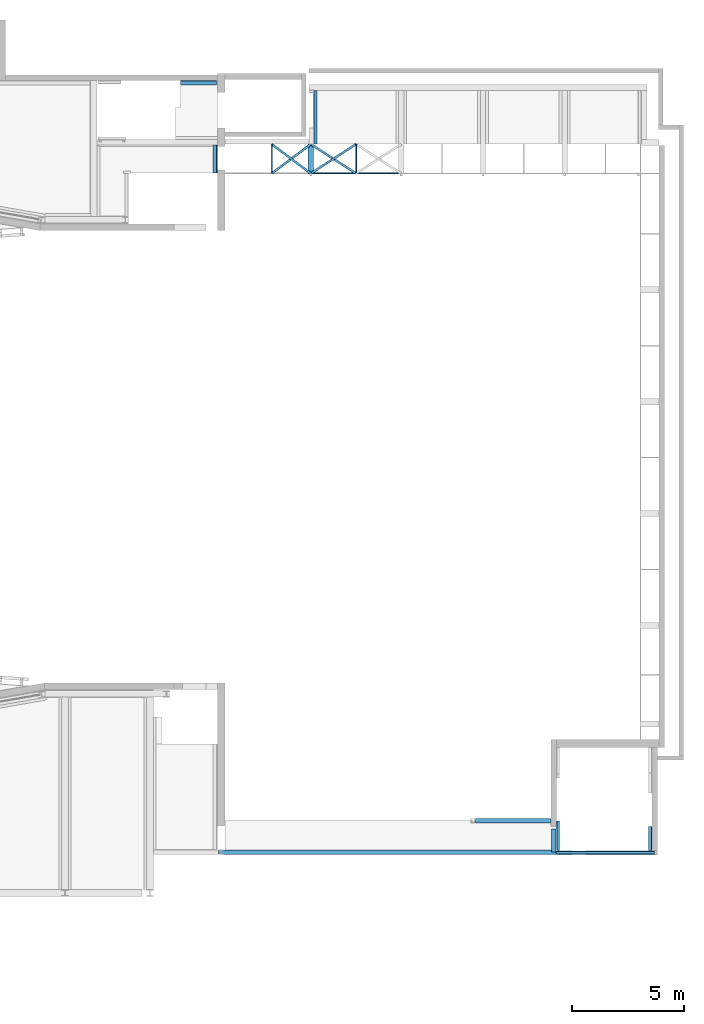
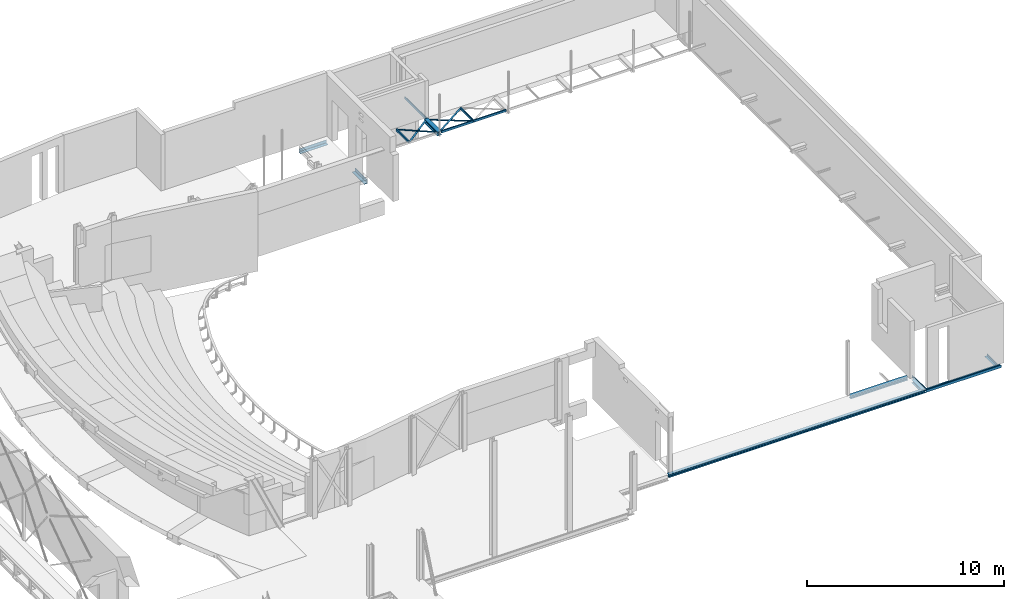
# One storey, part 28 of 68: 17 beams.
"""IFC2X3 building model written with IfcOpenShell, lengths in millimetres."""

from ifc_helpers import new_model, entity, si_unit, converted_unit, derived_unit, direction, frame, frame_2d, origin, place, context, subcontext, project, spatial, polyline, circle_curve, parameter, trimmed, segment, composite_curve, rectangle, i_section, outline, extrude, material, type_object, element, save


model = new_model("IFC2X3")

# Units and contexts
model_context = context("Model", 3, precision=0.01, world=origin(), true_north=direction((6.12303176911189e-17, 1.0)))
body_context = subcontext(model_context, "Body", "Model", "MODEL_VIEW")
ifc_project = project(units=[si_unit("LENGTHUNIT", "METRE", prefix="MILLI"), si_unit("AREAUNIT", "SQUARE_METRE", prefix="MILLI"), si_unit("VOLUMEUNIT", "CUBIC_METRE"), converted_unit("PLANEANGLEUNIT", "DEGREE", entity("IfcRatioMeasure", 0.0174532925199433), si_unit("PLANEANGLEUNIT", "RADIAN"), dimensions=[0, 0, 0, 0, 0, 0, 0]), si_unit("MASSUNIT", "GRAM", prefix="KILO"), derived_unit("MASSDENSITYUNIT", [(si_unit("MASSUNIT", "GRAM", prefix="KILO"), 1), (si_unit("LENGTHUNIT", "METRE"), -3)]), derived_unit("MOMENTOFINERTIAUNIT", [(si_unit("LENGTHUNIT", "METRE"), 4)]), si_unit("TIMEUNIT", "SECOND"), si_unit("FREQUENCYUNIT", "HERTZ"), si_unit("THERMODYNAMICTEMPERATUREUNIT", "DEGREE_CELSIUS"), derived_unit("THERMALTRANSMITTANCEUNIT", [(si_unit("MASSUNIT", "GRAM", prefix="KILO"), 1), (si_unit("THERMODYNAMICTEMPERATUREUNIT", "KELVIN"), -1), (si_unit("TIMEUNIT", "SECOND"), -3)]), derived_unit("VOLUMETRICFLOWRATEUNIT", [(si_unit("LENGTHUNIT", "METRE"), 3), (si_unit("TIMEUNIT", "SECOND"), -1)]), si_unit("ELECTRICCURRENTUNIT", "AMPERE"), si_unit("ELECTRICVOLTAGEUNIT", "VOLT"), si_unit("POWERUNIT", "WATT"), si_unit("FORCEUNIT", "NEWTON", prefix="KILO"), si_unit("ILLUMINANCEUNIT", "LUX"), si_unit("LUMINOUSFLUXUNIT", "LUMEN"), si_unit("LUMINOUSINTENSITYUNIT", "CANDELA"), derived_unit("USERDEFINED", [(si_unit("MASSUNIT", "GRAM", prefix="KILO"), -1), (si_unit("LENGTHUNIT", "METRE"), -2), (si_unit("TIMEUNIT", "SECOND"), 3), (si_unit("LUMINOUSFLUXUNIT", "LUMEN"), 1)]), derived_unit("LINEARVELOCITYUNIT", [(si_unit("LENGTHUNIT", "METRE"), 1), (si_unit("TIMEUNIT", "SECOND"), -1)]), si_unit("PRESSUREUNIT", "PASCAL"), derived_unit("USERDEFINED", [(si_unit("LENGTHUNIT", "METRE"), -2), (si_unit("MASSUNIT", "GRAM", prefix="KILO"), 1), (si_unit("TIMEUNIT", "SECOND"), -2)]), derived_unit("LINEARFORCEUNIT", [(si_unit("MASSUNIT", "GRAM", prefix="KILO"), 1), (si_unit("LENGTHUNIT", "METRE"), 1), (si_unit("TIMEUNIT", "SECOND"), -2), (si_unit("LENGTHUNIT", "METRE"), -1)]), derived_unit("PLANARFORCEUNIT", [(si_unit("MASSUNIT", "GRAM", prefix="KILO"), 1), (si_unit("LENGTHUNIT", "METRE"), 1), (si_unit("TIMEUNIT", "SECOND"), -2), (si_unit("LENGTHUNIT", "METRE"), -2)])], contexts=[model_context])

# Site, building, storey
site_placement = place(None, origin())
site = spatial("IfcSite", under=ifc_project, at=site_placement, Name="Theater aan de Parade", CompositionType="ELEMENT")
building_placement = place(site_placement, origin())
building = spatial("IfcBuilding", under=site, at=building_placement, Name="Theater aan de Parade", CompositionType="ELEMENT")
storey_placement = place(building_placement, frame((0.0, 0.0, 8750.0)))
storey = spatial("IfcBuildingStorey", under=building, at=storey_placement, Name="02 tweede verdieping", CompositionType="ELEMENT", Elevation=8750.0)

# Beams
ifc_material_1 = material(Name="00_PBT_MAT_staal_S355")
beam_type_1 = type_object("IfcBeamType", Name="28_PBT_SF_staal_L-profiel:S355_L150x150x15", PredefinedType="NOTDEFINED")
beam_1_placement = place(storey_placement, frame((71699.5000000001, 48822.0, 0.0), z_axis=(0.0, 0.0, 1.0), x_axis=(0.0, -1.0, 0.0)))
element("IfcBeam", 1, at=beam_1_placement, inside=storey, type_object=beam_type_1, material=ifc_material_1, Name="28_PBT_SF_staal_L-profiel:S355_L150x150x15", ObjectType="28_PBT_SF_staal_L-profiel:S355_L150x150x15", context=body_context, shape_type="SweptSolid", body=[
    extrude(outline(composite_curve([segment(polyline([(-93.3333333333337, -56.6666666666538), (56.6666666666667, -56.6666666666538)]), True, "CONTINUOUS"), segment(polyline([(56.6666666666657, -56.6666666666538), (56.6666666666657, 93.3333333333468)]), True, "CONTINUOUS"), segment(polyline([(56.6666666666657, 93.3333333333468), (49.6666666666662, 93.3333333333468)]), True, "CONTINUOUS"), segment(trimmed(circle_curve(frame_2d((49.6666666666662, 85.3333333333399), x_axis=(0.0, 1.0)), 7.99999999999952), [parameter(0.0)], [parameter(90.0000000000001)], True, "PARAMETER"), True, "CONTINUOUS"), segment(polyline([(41.6666666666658, 85.3333333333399), (41.6666666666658, -25.6666666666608)]), True, "CONTINUOUS"), segment(trimmed(circle_curve(frame_2d((25.6666666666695, -25.6666666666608), x_axis=(1.0, 0.0)), 15.999999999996), [parameter(269.999999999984)], [parameter(0.0)], True, "PARAMETER"), False, "CONTINUOUS"), segment(polyline([(25.6666666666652, -41.6666666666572), (-85.3333333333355, -41.6666666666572)]), True, "CONTINUOUS"), segment(trimmed(circle_curve(frame_2d((-85.3333333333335, -49.6666666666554), x_axis=(0.0, 1.0)), 7.9999999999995), [parameter(0.0)], [parameter(90.0000000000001)], True, "PARAMETER"), True, "CONTINUOUS"), segment(polyline([(-93.3333333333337, -49.6666666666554), (-93.3333333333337, -56.6666666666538)]), True, "CONTINUOUS")], self_intersect=False)), frame((0.0, 14.1666666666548, 1051.66666666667), z_axis=(1.0, 0.0, 0.0), x_axis=(0.0, 0.0, -1.0)), (0.0, 0.0, 1.0), 2410.12765932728),
])
beam_2_placement = place(storey_placement, frame((82542.5084217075, 14850.0, 0.0), z_axis=(0.0, 0.0, 1.0), x_axis=(0.0, 1.0, 0.0)))
element("IfcBeam", 2, at=beam_2_placement, inside=storey, type_object=beam_type_1, material=ifc_material_1, Name="28_PBT_SF_staal_L-profiel:S355_L150x150x15", ObjectType="28_PBT_SF_staal_L-profiel:S355_L150x150x15", context=body_context, shape_type="SweptSolid", body=[
    extrude(outline(composite_curve([segment(polyline([(49.6666666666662, -93.3333333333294), (56.6666666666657, -93.3333333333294)]), True, "CONTINUOUS"), segment(polyline([(56.6666666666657, -93.3333333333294), (56.6666666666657, 56.6666666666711)]), True, "CONTINUOUS"), segment(polyline([(56.6666666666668, 56.6666666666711), (-93.3333333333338, 56.6666666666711)]), True, "CONTINUOUS"), segment(polyline([(-93.3333333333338, 56.6666666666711), (-93.3333333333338, 49.6666666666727)]), True, "CONTINUOUS"), segment(trimmed(circle_curve(frame_2d((-85.3333333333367, 49.6666666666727), x_axis=(-1.0, 0.0)), 7.9999999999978), [parameter(0.0)], [parameter(90.0000000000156)], True, "PARAMETER"), True, "CONTINUOUS"), segment(polyline([(-85.3333333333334, 41.6666666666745), (25.6666666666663, 41.6666666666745)]), True, "CONTINUOUS"), segment(trimmed(circle_curve(frame_2d((25.6666666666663, 25.6666666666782), x_axis=(0.0, 1.0)), 15.9999999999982), [parameter(270.0)], [parameter(0.0)], True, "PARAMETER"), False, "CONTINUOUS"), segment(polyline([(41.6666666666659, 25.6666666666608), (41.6666666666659, -85.3333333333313)]), True, "CONTINUOUS"), segment(trimmed(circle_curve(frame_2d((49.666666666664, -85.3333333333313), x_axis=(-1.0, 0.0)), 7.99999999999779), [parameter(0.0)], [parameter(90.0000000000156)], True, "PARAMETER"), True, "CONTINUOUS")], self_intersect=False)), frame((0.0, -14.1666666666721, -193.333333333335), z_axis=(1.0, 0.0, 0.0), x_axis=(0.0, 0.0, -1.0)), (0.0, 0.0, 1.0), 1330.00004821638),
])
beam_3_placement = place(storey_placement, frame((86723.499999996, 14850.0, 0.0), z_axis=(0.0, 0.0, 1.0), x_axis=(0.0, 1.0, 0.0)))
element("IfcBeam", 3, at=beam_3_placement, inside=storey, type_object=beam_type_1, material=ifc_material_1, Name="28_PBT_SF_staal_L-profiel:S355_L150x150x15", ObjectType="28_PBT_SF_staal_L-profiel:S355_L150x150x15", context=body_context, shape_type="SweptSolid", body=[
    extrude(outline(composite_curve([segment(polyline([(-93.3333333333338, -56.6666666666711), (56.6666666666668, -56.6666666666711)]), True, "CONTINUOUS"), segment(polyline([(56.6666666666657, -56.6666666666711), (56.6666666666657, 93.3333333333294)]), True, "CONTINUOUS"), segment(polyline([(56.6666666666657, 93.3333333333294), (49.6666666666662, 93.3333333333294)]), True, "CONTINUOUS"), segment(trimmed(circle_curve(frame_2d((49.666666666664, 85.3333333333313), x_axis=(0.0, 1.0)), 7.99999999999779), [parameter(0.0)], [parameter(90.0000000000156)], True, "PARAMETER"), True, "CONTINUOUS"), segment(polyline([(41.6666666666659, 85.3333333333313), (41.6666666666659, -25.6666666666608)]), True, "CONTINUOUS"), segment(trimmed(circle_curve(frame_2d((25.6666666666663, -25.6666666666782), x_axis=(1.0, 0.0)), 15.9999999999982), [parameter(270.0)], [parameter(0.0)], True, "PARAMETER"), False, "CONTINUOUS"), segment(polyline([(25.6666666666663, -41.6666666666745), (-85.3333333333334, -41.6666666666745)]), True, "CONTINUOUS"), segment(trimmed(circle_curve(frame_2d((-85.3333333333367, -49.6666666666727), x_axis=(0.0, 1.0)), 7.9999999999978), [parameter(0.0)], [parameter(90.0000000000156)], True, "PARAMETER"), True, "CONTINUOUS"), segment(polyline([(-93.3333333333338, -49.6666666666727), (-93.3333333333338, -56.6666666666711)]), True, "CONTINUOUS")], self_intersect=False)), frame((0.0, 14.1666666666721, -193.333333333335), z_axis=(1.0, 0.0, 0.0), x_axis=(0.0, 0.0, -1.0)), (0.0, 0.0, 1.0), 1077.70736959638),
])
beam_type_2 = type_object("IfcBeamType", Name="28_PBT_SF_staal_koker:S355_K140x70x5", PredefinedType="NOTDEFINED")
beam_4_placement = place(storey_placement, frame((75451.2707440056, 45139.8723406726, 0.0), z_axis=(0.0, 0.0, 1.0), x_axis=(-1.0, 0.0, 0.0)))
element("IfcBeam", 4, at=beam_4_placement, inside=storey, type_object=beam_type_2, material=ifc_material_1, Name="28_PBT_SF_staal_koker:S355_K140x70x5", ObjectType="28_PBT_SF_staal_koker:S355_K140x70x5", context=body_context, shape_type="SweptSolid", body=[
    extrude(outline(composite_curve([segment(trimmed(circle_curve(frame_2d((-27.0, -62.0), x_axis=(1.0, 0.0)), 8.0), [parameter(180.0)], [parameter(270.0)], True, "PARAMETER"), True, "CONTINUOUS"), segment(polyline([(-27.0, -70.0), (27.0, -70.0)]), True, "CONTINUOUS"), segment(trimmed(circle_curve(frame_2d((27.0, -62.0), x_axis=(1.0, 0.0)), 8.0), [parameter(270.0)], [parameter(0.0)], True, "PARAMETER"), True, "CONTINUOUS"), segment(polyline([(35.0, -62.0), (35.0, 62.0)]), True, "CONTINUOUS"), segment(trimmed(circle_curve(frame_2d((27.0, 62.0), x_axis=(1.0, 0.0)), 8.0), [parameter(3.56222124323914e-13)], [parameter(90.0000000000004)], True, "PARAMETER"), True, "CONTINUOUS"), segment(polyline([(27.0, 70.0), (-27.0, 70.0)]), True, "CONTINUOUS"), segment(trimmed(circle_curve(frame_2d((-27.0, 62.0), x_axis=(1.0, 0.0)), 8.0), [parameter(90.0000000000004)], [parameter(180.0)], True, "PARAMETER"), True, "CONTINUOUS"), segment(polyline([(-35.0, 62.0), (-35.0, -62.0)]), True, "CONTINUOUS")], self_intersect=False), holes=[composite_curve([segment(trimmed(circle_curve(frame_2d((25.0, 60.0), x_axis=(1.0, 0.0)), 5.0), [parameter(360.0)], [parameter(90.0000000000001)], True, "PARAMETER"), False, "CONTINUOUS"), segment(polyline([(30.0, 60.0), (30.0, -60.0)]), True, "CONTINUOUS"), segment(trimmed(circle_curve(frame_2d((25.0, -60.0), x_axis=(1.0, 0.0)), 5.0), [parameter(269.999999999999)], [parameter(360.0)], True, "PARAMETER"), False, "CONTINUOUS"), segment(polyline([(25.0, -65.0), (-25.0, -65.0)]), True, "CONTINUOUS"), segment(trimmed(circle_curve(frame_2d((-25.0, -60.0), x_axis=(1.0, 0.0)), 5.0), [parameter(180.0)], [parameter(270.0)], True, "PARAMETER"), False, "CONTINUOUS"), segment(polyline([(-30.0, -60.0), (-30.0, 60.0)]), True, "CONTINUOUS"), segment(trimmed(circle_curve(frame_2d((-25.0, 60.0), x_axis=(1.0, 0.0)), 5.0), [parameter(89.9999999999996)], [parameter(180.0)], True, "PARAMETER"), False, "CONTINUOUS"), segment(polyline([(-25.0, 65.0), (25.0, 65.0)]), True, "CONTINUOUS")], self_intersect=False)]), frame((0.0, 35.0, 1210.0), z_axis=(1.0, 0.0, 0.0), x_axis=(0.0, 1.0, 0.0)), (0.0, 0.0, 1.0), 3800.0),
])
beam_5_placement = place(storey_placement, frame((73551.2707440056, 46411.8723406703, 0.0), z_axis=(0.0, 0.0, 1.0), x_axis=(0.0, -1.0, 0.0)))
element("IfcBeam", 5, at=beam_5_placement, inside=storey, type_object=beam_type_2, material=ifc_material_1, Name="28_PBT_SF_staal_koker:S355_K140x70x5", ObjectType="28_PBT_SF_staal_koker:S355_K140x70x5", context=body_context, shape_type="SweptSolid", body=[
    extrude(outline(composite_curve([segment(polyline([(-62.0, -35.0), (62.0, -35.0)]), True, "CONTINUOUS"), segment(trimmed(circle_curve(frame_2d((62.0, -27.0), x_axis=(0.0, 1.0)), 8.0), [parameter(180.0)], [parameter(270.0)], True, "PARAMETER"), True, "CONTINUOUS"), segment(polyline([(70.0, -27.0), (70.0, 27.0)]), True, "CONTINUOUS"), segment(trimmed(circle_curve(frame_2d((62.0, 27.0), x_axis=(0.0, 1.0)), 8.0), [parameter(270.0)], [parameter(360.0)], True, "PARAMETER"), True, "CONTINUOUS"), segment(polyline([(62.0, 35.0), (-62.0, 35.0)]), True, "CONTINUOUS"), segment(trimmed(circle_curve(frame_2d((-62.0, 27.0), x_axis=(0.0, 1.0)), 8.0), [parameter(0.0)], [parameter(90.0000000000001)], True, "PARAMETER"), True, "CONTINUOUS"), segment(polyline([(-70.0, 27.0), (-70.0, -27.0)]), True, "CONTINUOUS"), segment(trimmed(circle_curve(frame_2d((-62.0, -27.0), x_axis=(0.0, 1.0)), 8.0), [parameter(90.0)], [parameter(180.0)], True, "PARAMETER"), True, "CONTINUOUS")], self_intersect=False), holes=[composite_curve([segment(polyline([(65.0, 25.0), (65.0, -25.0)]), True, "CONTINUOUS"), segment(trimmed(circle_curve(frame_2d((60.0, -25.0), x_axis=(0.0, 1.0)), 5.0), [parameter(180.0)], [parameter(270.0)], True, "PARAMETER"), False, "CONTINUOUS"), segment(polyline([(60.0, -30.0), (-60.0, -30.0)]), True, "CONTINUOUS"), segment(trimmed(circle_curve(frame_2d((-60.0, -25.0), x_axis=(0.0, 1.0)), 5.0), [parameter(90.0)], [parameter(180.0)], True, "PARAMETER"), False, "CONTINUOUS"), segment(polyline([(-65.0, -25.0), (-65.0, 25.0)]), True, "CONTINUOUS"), segment(trimmed(circle_curve(frame_2d((-60.0, 25.0), x_axis=(0.0, 1.0)), 5.0), [parameter(4.07110999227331e-13)], [parameter(90.0000000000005)], True, "PARAMETER"), False, "CONTINUOUS"), segment(polyline([(-60.0, 30.0), (60.0, 30.0)]), True, "CONTINUOUS"), segment(trimmed(circle_curve(frame_2d((60.0, 25.0), x_axis=(0.0, 1.0)), 5.0), [parameter(270.0)], [parameter(1.01777749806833e-13)], True, "PARAMETER"), False, "CONTINUOUS")], self_intersect=False)]), frame((0.0, 0.0, 1210.0), z_axis=(1.0, 0.0, 0.0), x_axis=(0.0, 0.0, 1.0)), (0.0, 0.0, 1.0), 1271.99999999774),
])
beam_6_placement = place(storey_placement, frame((69781.2707440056, 46411.8723406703, 0.0), z_axis=(0.0, 0.0, 1.0), x_axis=(0.0, -1.0, 0.0)))
element("IfcBeam", 6, at=beam_6_placement, inside=storey, type_object=beam_type_2, material=ifc_material_1, Name="28_PBT_SF_staal_koker:S355_K140x70x5", ObjectType="28_PBT_SF_staal_koker:S355_K140x70x5", context=body_context, shape_type="SweptSolid", body=[
    extrude(outline(composite_curve([segment(polyline([(-62.0, -35.0), (62.0, -35.0)]), True, "CONTINUOUS"), segment(trimmed(circle_curve(frame_2d((62.0, -27.0), x_axis=(0.0, 1.0)), 8.0), [parameter(180.0)], [parameter(270.0)], True, "PARAMETER"), True, "CONTINUOUS"), segment(polyline([(70.0, -27.0), (70.0, 27.0)]), True, "CONTINUOUS"), segment(trimmed(circle_curve(frame_2d((62.0, 27.0), x_axis=(0.0, 1.0)), 8.0), [parameter(270.0)], [parameter(360.0)], True, "PARAMETER"), True, "CONTINUOUS"), segment(polyline([(62.0, 35.0), (-62.0, 35.0)]), True, "CONTINUOUS"), segment(trimmed(circle_curve(frame_2d((-62.0, 27.0), x_axis=(0.0, 1.0)), 8.0), [parameter(0.0)], [parameter(90.0000000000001)], True, "PARAMETER"), True, "CONTINUOUS"), segment(polyline([(-70.0, 27.0), (-70.0, -27.0)]), True, "CONTINUOUS"), segment(trimmed(circle_curve(frame_2d((-62.0, -27.0), x_axis=(0.0, 1.0)), 8.0), [parameter(90.0)], [parameter(180.0)], True, "PARAMETER"), True, "CONTINUOUS")], self_intersect=False), holes=[composite_curve([segment(polyline([(65.0, 25.0), (65.0, -25.0)]), True, "CONTINUOUS"), segment(trimmed(circle_curve(frame_2d((60.0, -25.0), x_axis=(0.0, 1.0)), 5.0), [parameter(180.0)], [parameter(270.0)], True, "PARAMETER"), False, "CONTINUOUS"), segment(polyline([(60.0, -30.0), (-60.0, -30.0)]), True, "CONTINUOUS"), segment(trimmed(circle_curve(frame_2d((-60.0, -25.0), x_axis=(0.0, 1.0)), 5.0), [parameter(90.0)], [parameter(180.0)], True, "PARAMETER"), False, "CONTINUOUS"), segment(polyline([(-65.0, -25.0), (-65.0, 25.0)]), True, "CONTINUOUS"), segment(trimmed(circle_curve(frame_2d((-60.0, 25.0), x_axis=(0.0, 1.0)), 5.0), [parameter(4.07110999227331e-13)], [parameter(90.0000000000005)], True, "PARAMETER"), False, "CONTINUOUS"), segment(polyline([(-60.0, 30.0), (60.0, 30.0)]), True, "CONTINUOUS"), segment(trimmed(circle_curve(frame_2d((60.0, 25.0), x_axis=(0.0, 1.0)), 5.0), [parameter(270.0)], [parameter(1.01777749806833e-13)], True, "PARAMETER"), False, "CONTINUOUS")], self_intersect=False)]), frame((0.0, 0.0, 1210.0), z_axis=(1.0, 0.0, 0.0), x_axis=(0.0, 0.0, 1.0)), (0.0, 0.0, 1.0), 1271.99999999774),
])
beam_type_3 = type_object("IfcBeamType", Name="28_PBT_SF_staal_L-profiel:S355_L200x200x20", PredefinedType="NOTDEFINED")
beam_7_placement = place(storey_placement, frame((65713.8822564, 49205.1979908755, 0.0)))
element("IfcBeam", 7, at=beam_7_placement, inside=storey, type_object=beam_type_3, material=ifc_material_1, Name="28_PBT_SF_staal_L-profiel:S355_L200x200x20", ObjectType="28_PBT_SF_staal_L-profiel:S355_L200x200x20", context=body_context, shape_type="SweptSolid", body=[
    extrude(outline(composite_curve([segment(polyline([(64.5555555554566, -124.444444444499), (75.5555555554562, -124.444444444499)]), True, "CONTINUOUS"), segment(polyline([(75.5555555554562, -124.444444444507), (75.5555555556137, 75.5555555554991)]), True, "CONTINUOUS"), segment(polyline([(75.5555555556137, 75.5555555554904), (-124.444444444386, 75.5555555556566)]), True, "CONTINUOUS"), segment(polyline([(-124.444444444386, 75.5555555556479), (-124.444444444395, 64.5555555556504)]), True, "CONTINUOUS"), segment(trimmed(circle_curve(frame_2d((-115.4444444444, 64.5555555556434), x_axis=(-1.0, 0.0)), 8.99999999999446), [parameter(0.0)], [parameter(90.0000000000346)], True, "PARAMETER"), True, "CONTINUOUS"), segment(polyline([(-115.444444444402, 55.5555555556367), (37.555555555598, 55.5555555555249)]), True, "CONTINUOUS"), segment(trimmed(circle_curve(frame_2d((37.5555555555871, 37.555555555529), x_axis=(0.0, 1.0)), 17.9999999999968), [parameter(269.99999999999)], [parameter(0.0)], True, "PARAMETER"), False, "CONTINUOUS"), segment(polyline([(55.555555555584, 37.5555555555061), (55.5555555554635, -115.444444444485)]), True, "CONTINUOUS"), segment(trimmed(circle_curve(frame_2d((64.5555555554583, -115.444444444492), x_axis=(-1.0, 0.0)), 8.99999999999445), [parameter(0.0)], [parameter(90.0000000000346)], True, "PARAMETER"), True, "CONTINUOUS")], self_intersect=False)), frame((0.0, -18.7555555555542, -409.444444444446), z_axis=(1.0, 0.0, 0.0), x_axis=(0.0, 0.0, -1.0)), (0.0, 0.0, 1.0), 1609.99999996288),
])
beam_8_placement = place(storey_placement, frame((67299.4561009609, 45117.5638256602, 0.0), z_axis=(0.0, 0.0, 1.0), x_axis=(0.0, 1.0, 0.0)))
element("IfcBeam", 8, at=beam_8_placement, inside=storey, type_object=beam_type_3, material=ifc_material_1, Name="28_PBT_SF_staal_L-profiel:S355_L200x200x20", ObjectType="28_PBT_SF_staal_L-profiel:S355_L200x200x20", context=body_context, shape_type="SweptSolid", body=[
    extrude(outline(composite_curve([segment(polyline([(-124.444444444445, -75.5555555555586), (75.5555555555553, -75.5555555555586)]), True, "CONTINUOUS"), segment(polyline([(75.5555555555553, -75.5555555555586), (75.5555555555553, 124.444444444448)]), True, "CONTINUOUS"), segment(polyline([(75.5555555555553, 124.444444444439), (64.5555555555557, 124.444444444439)]), True, "CONTINUOUS"), segment(trimmed(circle_curve(frame_2d((64.5555555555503, 115.444444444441), x_axis=(0.0, 1.0)), 8.99999999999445), [parameter(0.0)], [parameter(90.0000000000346)], True, "PARAMETER"), True, "CONTINUOUS"), segment(polyline([(55.5555555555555, 115.444444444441), (55.5555555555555, -37.5555555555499)]), True, "CONTINUOUS"), segment(trimmed(circle_curve(frame_2d((37.5555555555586, -37.5555555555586), x_axis=(1.0, 0.0)), 17.9999999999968), [parameter(269.99999999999)], [parameter(0.0)], True, "PARAMETER"), False, "CONTINUOUS"), segment(polyline([(37.5555555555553, -55.5555555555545), (-115.444444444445, -55.5555555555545)]), True, "CONTINUOUS"), segment(trimmed(circle_curve(frame_2d((-115.44444444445, -64.5555555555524), x_axis=(0.0, 1.0)), 8.99999999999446), [parameter(0.0)], [parameter(90.0000000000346)], True, "PARAMETER"), True, "CONTINUOUS"), segment(polyline([(-124.444444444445, -64.5555555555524), (-124.444444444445, -75.5555555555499)]), True, "CONTINUOUS")], self_intersect=False)), frame((0.0, 18.755555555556, -409.444444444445), z_axis=(1.0, 0.0, 0.0), x_axis=(0.0, 0.0, -1.0)), (0.0, 0.0, 1.0), 1249.29929153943),
])
beam_type_4 = type_object("IfcBeamType", Name="28_PBT_SF_staal_H-profiel:S355_HE240A", PredefinedType="NOTDEFINED")
beam_9_placement = place(storey_placement, frame((71531.2707440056, 46411.8723406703, 0.0), z_axis=(0.0, 0.0, 1.0), x_axis=(0.0, -1.0, 0.0)))
element("IfcBeam", 9, at=beam_9_placement, inside=storey, type_object=beam_type_4, material=ifc_material_1, Name="28_PBT_SF_staal_H-profiel:S355_HE240A", ObjectType="28_PBT_SF_staal_H-profiel:S355_HE240A", context=body_context, shape_type="SweptSolid", body=[
    extrude(i_section(OverallWidth=239.999999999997, OverallDepth=230.0, WebThickness=7.49999999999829, FlangeThickness=11.9999999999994, FilletRadius=21.0000000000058, at=frame_2d((0.0, 2.59916532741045e-11), x_axis=(0.0, 1.0))), frame((0.0, 0.0, 1165.0), z_axis=(1.0, 0.0, 0.0), x_axis=(0.0, 0.0, -1.0)), (0.0, 0.0, 1.0), 1341.99999999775),
])
beam_type_5 = type_object("IfcBeamType", Name="28_PBT_SF_staal_H-profiel (void):S355_HE200A", PredefinedType="NOTDEFINED")
beam_10_placement = place(storey_placement, frame((82475.008421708, 14780.0, 0.0), z_axis=(0.0, 0.0, 1.0), x_axis=(-1.0, 0.0, 0.0)))
element("IfcBeam", 10, at=beam_10_placement, inside=storey, type_object=beam_type_5, material=ifc_material_1, Name="28_PBT_SF_staal_H-profiel (void):S355_HE200A", ObjectType="28_PBT_SF_staal_H-profiel (void):S355_HE200A", context=body_context, shape_type="SweptSolid", body=[
    extrude(outline(composite_curve([segment(polyline([(85.0, -100.0), (95.0, -100.0)]), True, "CONTINUOUS"), segment(polyline([(95.0, -100.0), (95.0, 100.0)]), True, "CONTINUOUS"), segment(polyline([(95.0, 100.0), (85.0, 100.0)]), True, "CONTINUOUS"), segment(polyline([(85.0, 100.0), (85.0, 21.2500000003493)]), True, "CONTINUOUS"), segment(trimmed(circle_curve(frame_2d((67.0, 21.2500000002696), x_axis=(1.0, 0.0)), 18.0000000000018), [parameter(270.00000000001)], [parameter(0.0)], True, "PARAMETER"), False, "CONTINUOUS"), segment(polyline([(67.0, 3.25000000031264), (-67.0, 3.24999999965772)]), True, "CONTINUOUS"), segment(trimmed(circle_curve(frame_2d((-67.0, 21.2499999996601), x_axis=(0.0, -1.0)), 18.0000000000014), [parameter(270.00000000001)], [parameter(0.0)], True, "PARAMETER"), False, "CONTINUOUS"), segment(polyline([(-85.0, 21.2499999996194), (-85.0, 100.0)]), True, "CONTINUOUS"), segment(polyline([(-85.0, 100.0), (-95.0, 100.0)]), True, "CONTINUOUS"), segment(polyline([(-95.0, 100.0), (-95.0, -100.0)]), True, "CONTINUOUS"), segment(polyline([(-95.0, -100.0), (-85.0, -100.0)]), True, "CONTINUOUS"), segment(polyline([(-85.0, -100.0), (-85.0, -21.2500000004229)]), True, "CONTINUOUS"), segment(trimmed(circle_curve(frame_2d((-67.0, -21.2500000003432), x_axis=(-1.0, 0.0)), 18.0000000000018), [parameter(270.00000000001)], [parameter(0.0)], True, "PARAMETER"), False, "CONTINUOUS"), segment(polyline([(-67.0, -3.25000000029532), (67.0, -3.24999999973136)]), True, "CONTINUOUS"), segment(trimmed(circle_curve(frame_2d((67.0, -21.2499999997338), x_axis=(0.0, 1.0)), 18.0000000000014), [parameter(270.00000000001)], [parameter(0.0)], True, "PARAMETER"), False, "CONTINUOUS"), segment(polyline([(85.0, -21.2499999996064), (85.0, -100.0)]), True, "CONTINUOUS")], self_intersect=False)), frame((0.0, 0.0, -185.0), z_axis=(1.0, 0.0, 0.0), x_axis=(0.0, 0.0, -1.0)), (0.0, 0.0, 1.0), 15058.9520737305),
])
beam_11_placement = place(storey_placement, frame((82250.008421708, 16197.0, 0.0), z_axis=(0.0, 0.0, 1.0), x_axis=(-1.0, 0.0, 0.0)))
element("IfcBeam", 11, at=beam_11_placement, inside=storey, type_object=beam_type_5, material=ifc_material_1, Name="28_PBT_SF_staal_H-profiel (void):S355_HE200A", ObjectType="28_PBT_SF_staal_H-profiel (void):S355_HE200A", context=body_context, shape_type="SweptSolid", body=[
    extrude(outline(composite_curve([segment(polyline([(85.0, -100.0), (95.0, -100.0)]), True, "CONTINUOUS"), segment(polyline([(95.0, -100.0), (95.0, 100.0)]), True, "CONTINUOUS"), segment(polyline([(95.0, 100.0), (85.0, 100.0)]), True, "CONTINUOUS"), segment(polyline([(85.0, 100.0), (85.0, 21.250000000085)]), True, "CONTINUOUS"), segment(trimmed(circle_curve(frame_2d((67.0, 21.2500000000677), x_axis=(1.0, 0.0)), 18.0000000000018), [parameter(270.00000000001)], [parameter(0.0)], True, "PARAMETER"), False, "CONTINUOUS"), segment(polyline([(67.0, 3.25000000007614), (-67.0, 3.24999999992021)]), True, "CONTINUOUS"), segment(trimmed(circle_curve(frame_2d((-67.0, 21.2499999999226), x_axis=(0.0, -1.0)), 18.0000000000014), [parameter(270.00000000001)], [parameter(0.0)], True, "PARAMETER"), False, "CONTINUOUS"), segment(polyline([(-85.0, 21.2499999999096), (-85.0, 100.0)]), True, "CONTINUOUS"), segment(polyline([(-85.0, 100.0), (-95.0, 100.0)]), True, "CONTINUOUS"), segment(polyline([(-95.0, 100.0), (-95.0, -100.0)]), True, "CONTINUOUS"), segment(polyline([(-95.0, -100.0), (-85.0, -100.0)]), True, "CONTINUOUS"), segment(polyline([(-85.0, -100.0), (-85.0, -21.250000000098)]), True, "CONTINUOUS"), segment(trimmed(circle_curve(frame_2d((-67.0, -21.2500000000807), x_axis=(-1.0, 0.0)), 18.0000000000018), [parameter(270.00000000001)], [parameter(0.0)], True, "PARAMETER"), False, "CONTINUOUS"), segment(polyline([(-67.0, -3.25000000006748), (67.0, -3.24999999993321)]), True, "CONTINUOUS"), segment(trimmed(circle_curve(frame_2d((67.0, -21.2499999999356), x_axis=(0.0, 1.0)), 18.0000000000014), [parameter(270.00000000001)], [parameter(0.0)], True, "PARAMETER"), False, "CONTINUOUS"), segment(polyline([(85.0, -21.2499999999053), (85.0, -100.0)]), True, "CONTINUOUS")], self_intersect=False)), frame((0.0, 0.0, -185.0), z_axis=(1.0, 0.0, 0.0), x_axis=(0.0, 0.0, -1.0)), (0.0, 0.0, 1.0), 3366.149452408),
])
beam_12_placement = place(storey_placement, frame((82375.008421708, 15809.9960954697, 0.0), z_axis=(0.0, 0.0, 1.0), x_axis=(0.0, -1.0, 0.0)))
element("IfcBeam", 12, at=beam_12_placement, inside=storey, type_object=beam_type_5, material=ifc_material_1, Name="28_PBT_SF_staal_H-profiel (void):S355_HE200A", ObjectType="28_PBT_SF_staal_H-profiel (void):S355_HE200A", context=body_context, shape_type="SweptSolid", body=[
    extrude(outline(composite_curve([segment(polyline([(85.0, -100.0), (95.0, -100.0)]), True, "CONTINUOUS"), segment(polyline([(95.0, -100.0), (95.0, 100.0)]), True, "CONTINUOUS"), segment(polyline([(95.0, 100.0), (85.0, 100.0)]), True, "CONTINUOUS"), segment(polyline([(85.0, 100.0), (85.0, 21.2500000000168)]), True, "CONTINUOUS"), segment(trimmed(circle_curve(frame_2d((67.0, 21.2500000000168), x_axis=(1.0, 0.0)), 17.9999999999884), [parameter(269.999999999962)], [parameter(0.0)], True, "PARAMETER"), False, "CONTINUOUS"), segment(polyline([(67.0, 3.25000000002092), (-67.0, 3.25000000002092)]), True, "CONTINUOUS"), segment(trimmed(circle_curve(frame_2d((-67.0, 21.2500000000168), x_axis=(0.0, -1.0)), 17.9999999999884), [parameter(269.999999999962)], [parameter(0.0)], True, "PARAMETER"), False, "CONTINUOUS"), segment(polyline([(-85.0, 21.2500000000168), (-85.0, 100.0)]), True, "CONTINUOUS"), segment(polyline([(-85.0, 100.0), (-95.0, 100.0)]), True, "CONTINUOUS"), segment(polyline([(-95.0, 100.0), (-95.0, -100.0)]), True, "CONTINUOUS"), segment(polyline([(-95.0, -100.0), (-85.0, -100.0)]), True, "CONTINUOUS"), segment(polyline([(-85.0, -100.0), (-85.0, -21.2499999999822)]), True, "CONTINUOUS"), segment(trimmed(circle_curve(frame_2d((-67.0, -21.2499999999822), x_axis=(-1.0, 0.0)), 17.9999999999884), [parameter(269.999999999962)], [parameter(0.0)], True, "PARAMETER"), False, "CONTINUOUS"), segment(polyline([(-67.0, -3.24999999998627), (67.0, -3.24999999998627)]), True, "CONTINUOUS"), segment(trimmed(circle_curve(frame_2d((67.0, -21.2499999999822), x_axis=(0.0, 1.0)), 17.9999999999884), [parameter(269.999999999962)], [parameter(0.0)], True, "PARAMETER"), False, "CONTINUOUS"), segment(polyline([(85.0, -21.2499999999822), (85.0, -100.0)]), True, "CONTINUOUS")], self_intersect=False)), frame((0.0, 0.0, -185.0), z_axis=(1.0, 0.0, 0.0), x_axis=(0.0, 0.0, -1.0)), (0.0, 0.0, 1.0), 1029.99609547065),
])
ifc_material_2 = material(Name="00_PBT_MAT_staal")
beam_type_6 = type_object("IfcBeamType", Name="28_PBT_SF_staal_strip:strip 100x10", PredefinedType="NOTDEFINED")
beam_13_placement = place(storey_placement, frame((71531.2707440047, 46411.8723406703, 0.0), z_axis=(0.0, 0.0, 1.0), x_axis=(-0.801207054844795, -0.598387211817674, 0.0)))
element("IfcBeam", 13, at=beam_13_placement, inside=storey, type_object=beam_type_6, material=ifc_material_2, Name="28_PBT_SF_staal_strip:strip 100x10", ObjectType="28_PBT_SF_staal_strip:strip 100x10", context=body_context, shape_type="SweptSolid", body=[
    extrude(rectangle(XDim=9.99999999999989, YDim=100.000000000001, at=frame_2d((1.0831335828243e-12, -6.06092953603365e-12), x_axis=(1.0, 0.0))), frame((0.0, 0.0, 1215.0), z_axis=(1.0, 0.0, 0.0), x_axis=(0.0, 0.0, -1.0)), (0.0, 0.0, 1.0), 2184.20443182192),
])
beam_14_placement = place(storey_placement, frame((69781.2707440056, 46411.8723406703, 0.0), z_axis=(0.0, 0.0, 1.0), x_axis=(0.801207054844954, -0.598387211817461, 0.0)))
element("IfcBeam", 14, at=beam_14_placement, inside=storey, type_object=beam_type_6, material=ifc_material_2, Name="28_PBT_SF_staal_strip:strip 100x10", ObjectType="28_PBT_SF_staal_strip:strip 100x10", context=body_context, shape_type="SweptSolid", body=[
    extrude(rectangle(XDim=9.99999999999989, YDim=99.9999999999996, at=frame_2d((1.0831335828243e-12, -6.06092953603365e-12), x_axis=(1.0, 0.0))), frame((0.0, 0.0, 1225.0), z_axis=(1.0, 0.0, 0.0), x_axis=(0.0, 0.0, -1.0)), (0.0, 0.0, 1.0), 2184.20443182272),
])
beam_15_placement = place(storey_placement, frame((71531.2707440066, 46411.8723406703, 0.0), z_axis=(0.0, 0.0, 1.0), x_axis=(0.839581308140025, -0.543234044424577, 0.0)))
element("IfcBeam", 15, at=beam_15_placement, inside=storey, type_object=beam_type_6, material=ifc_material_2, Name="28_PBT_SF_staal_strip:strip 100x10", ObjectType="28_PBT_SF_staal_strip:strip 100x10", context=body_context, shape_type="SweptSolid", body=[
    extrude(rectangle(XDim=9.99999999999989, YDim=100.000000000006, at=frame_2d((1.0831335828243e-12, 2.35189645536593e-12), x_axis=(1.0, 0.0))), frame((0.0, 0.0, 1215.0), z_axis=(1.0, 0.0, 0.0), x_axis=(0.0, 0.0, -1.0)), (0.0, 0.0, 1.0), 2405.96113850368),
])
beam_16_placement = place(storey_placement, frame((73551.2707440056, 46411.8723406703, 0.0), z_axis=(0.0, 0.0, 1.0), x_axis=(-0.839581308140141, -0.543234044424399, 0.0)))
element("IfcBeam", 16, at=beam_16_placement, inside=storey, type_object=beam_type_6, material=ifc_material_2, Name="28_PBT_SF_staal_strip:strip 100x10", ObjectType="28_PBT_SF_staal_strip:strip 100x10", context=body_context, shape_type="SweptSolid", body=[
    extrude(rectangle(XDim=9.99999999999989, YDim=99.9999999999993, at=frame_2d((1.0831335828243e-12, -7.27240490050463e-12), x_axis=(1.0, 0.0))), frame((0.0, 0.0, 1225.0), z_axis=(1.0, 0.0, 0.0), x_axis=(0.0, 0.0, -1.0)), (0.0, 0.0, 1.0), 2405.96113850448),
])
beam_type_7 = type_object("IfcBeamType", Name="28_PBT_SF_staal_H-profiel:S355_HE160A(Z)", PredefinedType="NOTDEFINED")
beam_17_placement = place(storey_placement, frame((86891.0, 14750.0, 0.0), z_axis=(0.0, 0.0, 1.0), x_axis=(-1.0, 0.0, 0.0)))
element("IfcBeam", 17, at=beam_17_placement, inside=storey, type_object=beam_type_7, material=ifc_material_1, Name="28_PBT_SF_staal_H-profiel:S355_HE160A(Z)", ObjectType="28_PBT_SF_staal_H-profiel:S355_HE160A(Z)", context=body_context, shape_type="SweptSolid", body=[
    extrude(i_section(OverallWidth=160.0, OverallDepth=152.0, WebThickness=6.00000000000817, FlangeThickness=9.00000000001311, FilletRadius=15.0000000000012, at=frame_2d((-2.1600499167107e-12, 2.16715534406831e-12), x_axis=(1.0, 0.0))), frame((0.0, 0.0, -185.0), z_axis=(1.0, 0.0, 0.0), x_axis=(0.0, 0.0, -1.0)), (0.0, 0.0, 1.0), 4415.99157828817),
])

save(model, "model.ifc")
